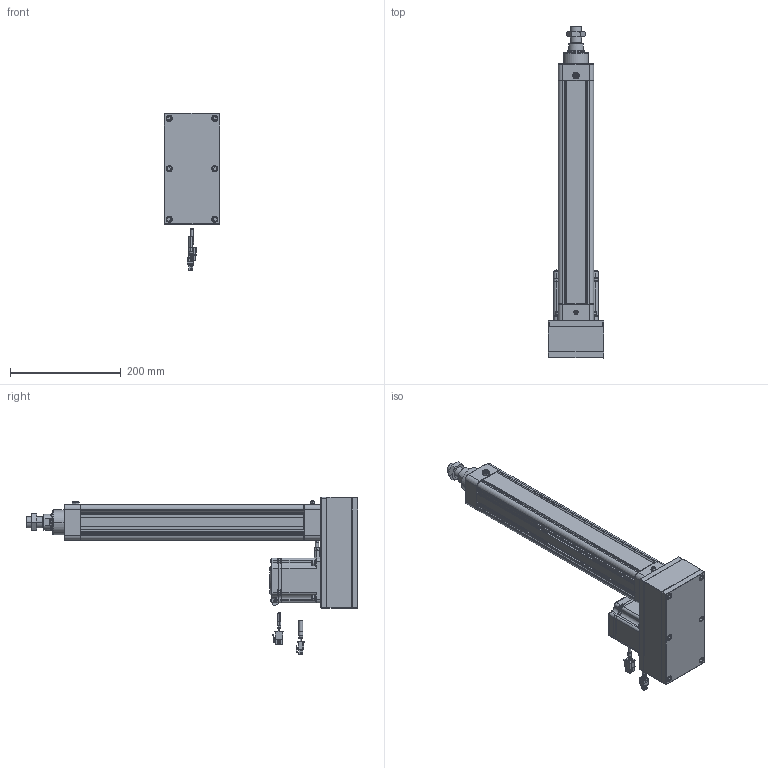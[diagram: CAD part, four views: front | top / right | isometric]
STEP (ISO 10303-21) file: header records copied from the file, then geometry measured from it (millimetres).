
FILE_DESCRIPTION((''),'2;1');
FILE_NAME('HE50-D-100-X1_ASM','2020-04-07T',('ASUS20200'),(''),'CREO PARAMETRIC BY PTC INC, 2014190','CREO PARAMETRIC BY PTC INC, 2014190','');
FILE_SCHEMA(('CONFIG_CONTROL_DESIGN'));
Length unit declared in the file: millimetre
Products named in the file (27): HE50-D-P-001-X1; HE50-D-P-002-X1; HE50-D-P-003-X1; 6301ZZ; LGLM-M8-22; SLM-01; YZ-M6X1; HE50-P-010-X1-400W; _MHMF082L1A2; _CABLE_MOTOR_TOP_05; _MOTOR_CONNECTOR_2; _CABLE_BRAKE_TOP_05; _MHMF_CONNECTOR_9_PIN_A6; MHMF082L1A2M2_1_ASM; TD-6; M6X25; LM-M6X1; JX6X6X20; M6X25-DS; LM-M6-15; HE50-P-012-X1; HE50-P-013-X1; M6X60; HE50-D-P-005-X1; HE50-D-P-004-X1; HE50-D-P-008-X1; HE50-D-100-X1_ASM
Assembly tree (48 placements, depth 3):
  HE50-D-100-X1_ASM
    HE50-D-P-001-X1
    HE50-D-P-002-X1
    HE50-D-P-003-X1
    6301ZZ
    LGLM-M8-22  x8
    SLM-01
    YZ-M6X1
    HE50-P-010-X1-400W
    MHMF082L1A2M2_1_ASM
      _MHMF082L1A2
      _CABLE_MOTOR_TOP_05
      _MOTOR_CONNECTOR_2
      _CABLE_BRAKE_TOP_05
      _MHMF_CONNECTOR_9_PIN_A6
    TD-6  x4
    M6X25  x4
    LM-M6X1  x5
    JX6X6X20
    M6X25-DS
    LM-M6-15
    HE50-P-012-X1
    HE50-P-013-X1
    M6X60  x6
    HE50-D-P-005-X1
    HE50-D-P-004-X1
    HE50-D-P-008-X1
Bounding box: 100 x 598.5 x 283.65 mm (x, y, z)
Volume: 2103586.7 mm3; surface area: 575379.6 mm2
Topology: 47 solids, 74 shells, 2788 faces, 6672 edges, 4118 vertices
Faces by surface type: plane 1227, cylinder 739, cone 679, torus 110, sphere 30, bspline 3
Entity records: 66774 total; most frequent: CARTESIAN_POINT 12683, DIRECTION 11779, ORIENTED_EDGE 10664, EDGE_CURVE 5376, AXIS2_PLACEMENT_3D 4343, VERTEX_POINT 3337, VECTOR 3093, LINE 3093
